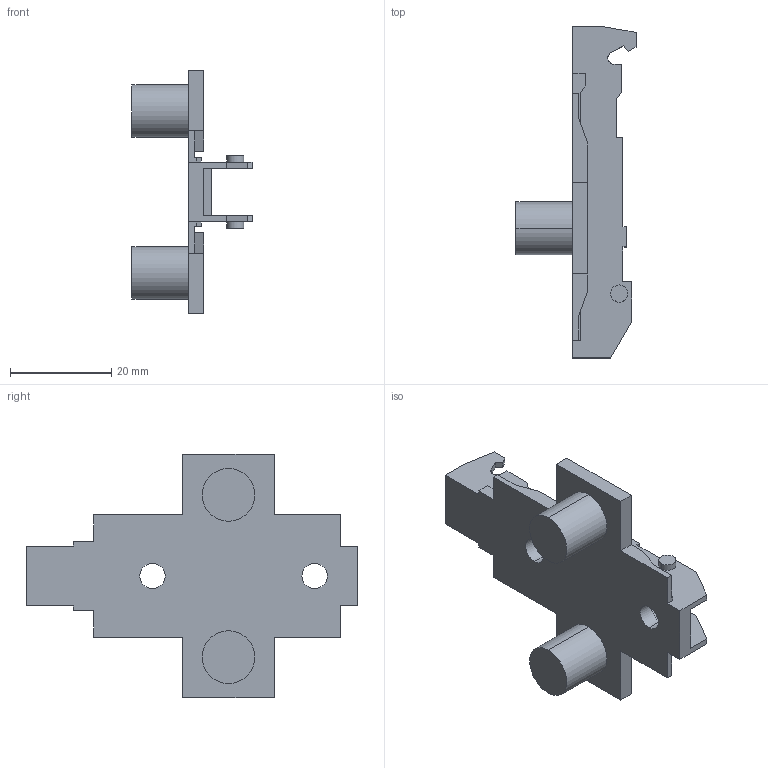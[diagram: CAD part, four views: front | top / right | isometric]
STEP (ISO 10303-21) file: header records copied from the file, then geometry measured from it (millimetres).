
FILE_DESCRIPTION (( 'STEP AP214' ), '1' );
FILE_NAME ('1D_Kreuzmontageplatte 37_32_10mm_Dübel_2.step', '2010-11-18T10:19:08', ( 'grass' ), ( '' ), 'SwSTEP 2.0', 'SolidWorks 2010', '' );
FILE_SCHEMA (( 'AUTOMOTIVE_DESIGN' ));
Length unit declared in the file: millimetre
Products named in the file (1): 1D_Kreuzmontageplatte 37_32_10mm_Dübel_2
Bounding box: 23.7 x 65.5 x 48 mm (x, y, z)
Volume: 7864.7 mm3; surface area: 7206 mm2
Topology: 1 solids, 1 shells, 114 faces, 314 edges, 208 vertices
Faces by surface type: plane 88, cylinder 22, cone 4
Entity records: 3636 total; most frequent: CARTESIAN_POINT 637, ORIENTED_EDGE 628, DIRECTION 592, EDGE_CURVE 314, LINE 266, VECTOR 266, VERTEX_POINT 208, AXIS2_PLACEMENT_3D 163
